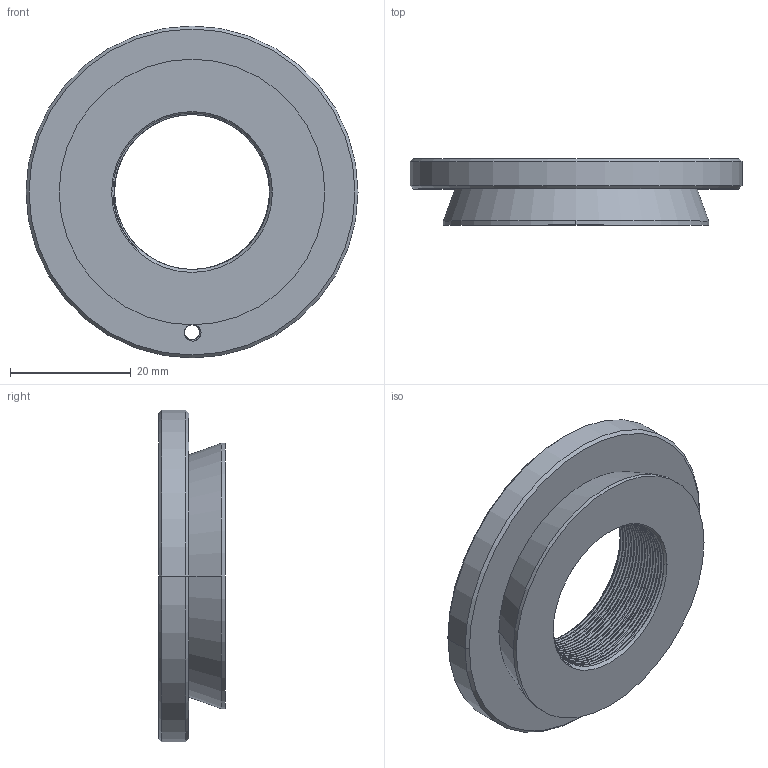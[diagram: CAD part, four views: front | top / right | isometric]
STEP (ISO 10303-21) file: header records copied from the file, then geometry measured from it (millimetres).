
FILE_DESCRIPTION((''),'2;1');
FILE_NAME('OB-SM1B_ASM','2026-07-04T14:50:21',('R&D'),(''),'CREO PARAMETRIC BY PTC INC, 2021063','CREO PARAMETRIC BY PTC INC, 2021063','');
FILE_SCHEMA(('CONFIG_CONTROL_DESIGN'));
Length unit declared in the file: millimetre
Products named in the file (2): OB-SM1B; OB-SM1B_ASM
Assembly tree (1 placements, depth 2):
  OB-SM1B_ASM
    OB-SM1B
Bounding box: 55 x 11 x 55 mm (x, y, z)
Volume: 14405.4 mm3; surface area: 6958.4 mm2
Topology: 1 solids, 1 shells, 95 faces, 258 edges, 166 vertices
Faces by surface type: cylinder 55, bspline 27, cone 10, plane 3
Entity records: 10937 total; most frequent: CARTESIAN_POINT 8824, ORIENTED_EDGE 516, DIRECTION 280, EDGE_CURVE 258, VERTEX_POINT 166, B_SPLINE_CURVE_WITH_KNOTS 147, EDGE_LOOP 100, AXIS2_PLACEMENT_3D 98
